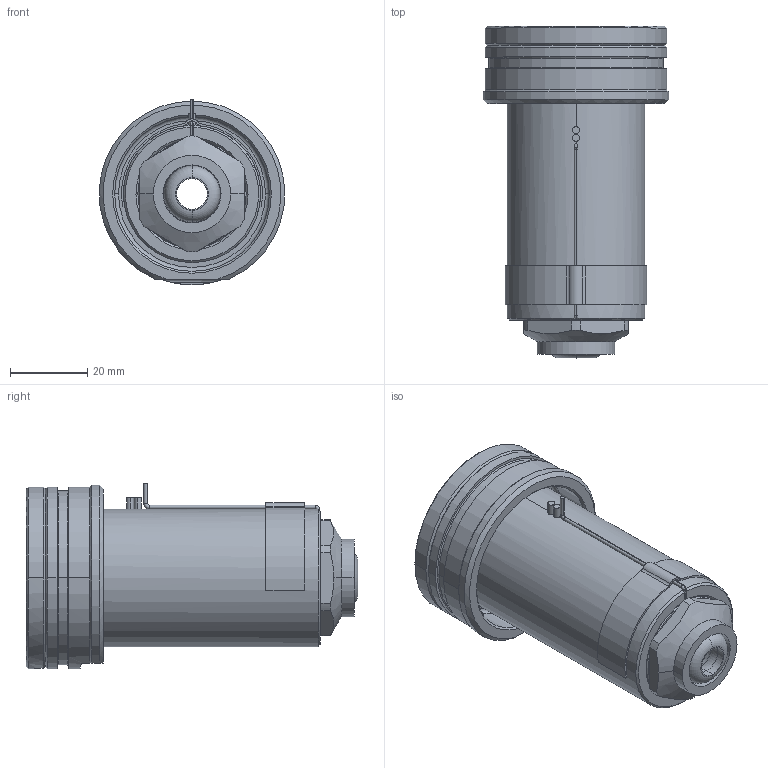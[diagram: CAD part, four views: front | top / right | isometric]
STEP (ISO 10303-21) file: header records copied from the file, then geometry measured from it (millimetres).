
FILE_DESCRIPTION((''),'2;1');
FILE_NAME('EO16_VG-BL_STD_070_SW','2024-02-19T13:17:51',('sundharh'),(''),'CREO PARAMETRIC BY PTC INC, 2023154','CREO PARAMETRIC BY PTC INC, 2023154','');
FILE_SCHEMA(('CONFIG_CONTROL_DESIGN'));
Length unit declared in the file: millimetre
Products named in the file (1): EO16_VG-BL_STD_070_SW
Bounding box: 47.97 x 85.8 x 48 mm (x, y, z)
Volume: 75389.6 mm3; surface area: 22328.6 mm2
Topology: 1 solids, 1 shells, 192 faces, 463 edges, 279 vertices
Faces by surface type: cylinder 72, plane 46, cone 37, torus 22, bspline 13, sphere 2
Entity records: 6422 total; most frequent: CARTESIAN_POINT 1867, DIRECTION 1020, ORIENTED_EDGE 914, EDGE_CURVE 457, AXIS2_PLACEMENT_3D 426, VERTEX_POINT 279, CIRCLE 247, EDGE_LOOP 208
